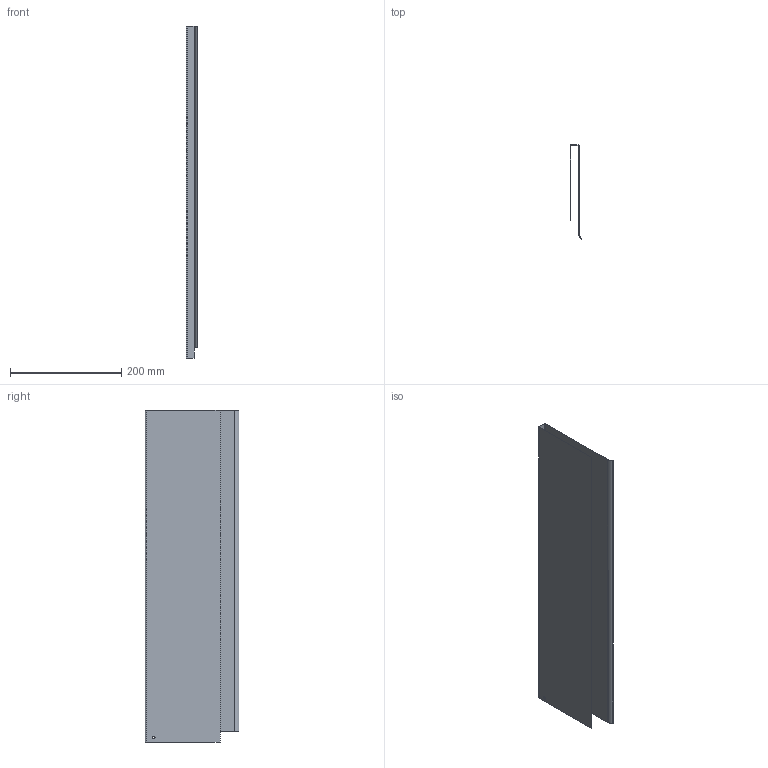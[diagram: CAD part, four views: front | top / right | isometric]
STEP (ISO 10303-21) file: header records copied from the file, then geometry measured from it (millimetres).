
FILE_DESCRIPTION (( 'STEP AP203' ), '1' );
FILE_NAME ('Nova Pro Duowing H186 HRW Classic links_NL600.step', '2014-02-14T12:06:01', ( 'test' ), ( '' ), 'SwSTEP 2.0', 'SolidWorks 2013', '' );
FILE_SCHEMA (( 'CONFIG_CONTROL_DESIGN' ));
Length unit declared in the file: millimetre
Products named in the file (1): Nova Pro Duowing H186 HRW Classic links_NL600
Bounding box: 20.72 x 169 x 597.5 mm (x, y, z)
Volume: 93783.4 mm3; surface area: 376058.1 mm2
Topology: 1 solids, 1 shells, 29 faces, 66 edges, 39 vertices
Faces by surface type: plane 20, cylinder 9
Entity records: 880 total; most frequent: DIRECTION 145, CARTESIAN_POINT 135, ORIENTED_EDGE 132, EDGE_CURVE 66, AXIS2_PLACEMENT_3D 49, LINE 47, VECTOR 47, VERTEX_POINT 39
